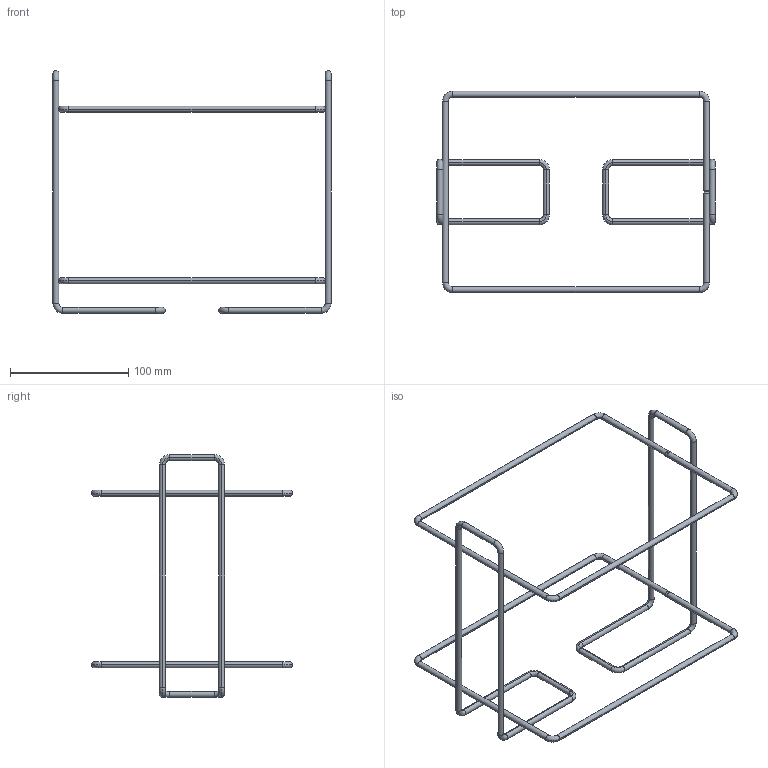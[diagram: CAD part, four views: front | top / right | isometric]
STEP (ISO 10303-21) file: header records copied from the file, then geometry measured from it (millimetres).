
FILE_DESCRIPTION(('CATIA V5 STEP Exchange'),'2;1');
FILE_NAME('D:\OLD\HCS Files\HCS STP\Waste Bin Holder\926998400.stp','2023-05-08T08:04:11+00:00',('none'),('none'),'CATIA Version 5 Release 21 GA (IN-10)','CATIA V5 STEP AP203','none');
FILE_SCHEMA(('CONFIG_CONTROL_DESIGN'));
Length unit declared in the file: millimetre
Products named in the file (1): Part2
Bounding box: 235 x 170 x 205 mm (x, y, z)
Volume: 55946 mm3; surface area: 44815.1 mm2
Topology: 4 solids, 4 shells, 96 faces, 188 edges, 96 vertices
Faces by surface type: cylinder 44, torus 40, cone 8, plane 4
Entity records: 2092 total; most frequent: ORIENTED_EDGE 376, CARTESIAN_POINT 333, DIRECTION 284, EDGE_CURVE 188, AXIS2_PLACEMENT_3D 185, CIRCLE 136, ADVANCED_FACE 96, EDGE_LOOP 96
